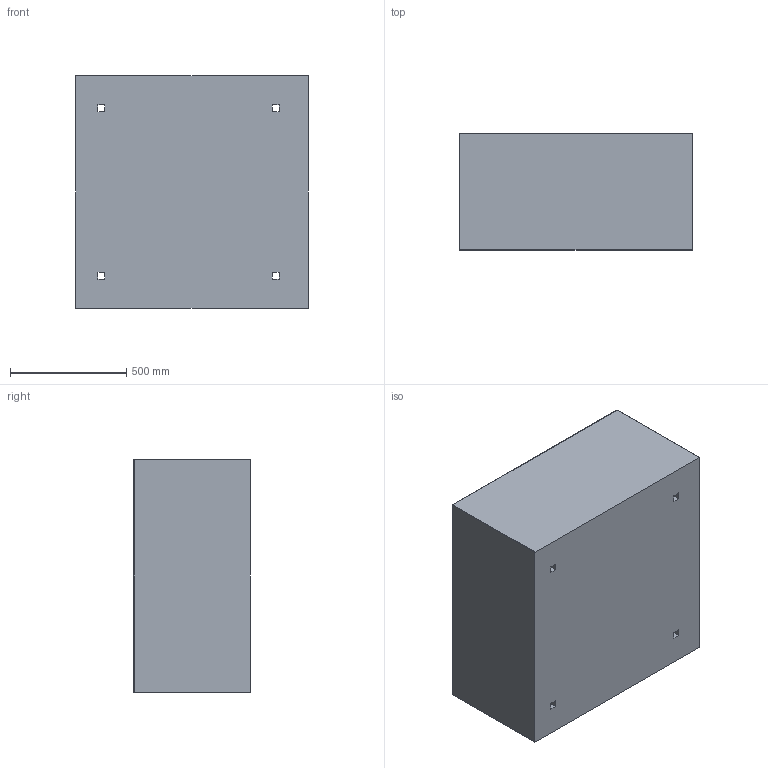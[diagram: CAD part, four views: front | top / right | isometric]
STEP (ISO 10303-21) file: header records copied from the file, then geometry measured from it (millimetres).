
FILE_DESCRIPTION(/* description */ (''),/* implementation_level */ '2;1');
FILE_NAME(/* name */ 'C:\Mac\Home\Desktop\btnv\inventor\grande10010050\donica betonowa Grande 100x100x50cm.stp',/* time_stamp */ '2025-11-10T22:34:29+01:00',/* author */ ('dwasik'),/* organization */ (''),/* preprocessor_version */ 'ST-DEVELOPER v15.6',/* originating_system */ 'Autodesk Inventor 2015',/* authorisation */ '');
FILE_SCHEMA (('AUTOMOTIVE_DESIGN { 1 0 10303 214 3 1 1 }'));
Length unit declared in the file: millimetre
Products named in the file (1): Part1
Bounding box: 1000 x 500 x 1000 mm (x, y, z)
Volume: 135416887.8 mm3; surface area: 5653858.3 mm2
Topology: 5 solids, 5 shells, 51 faces, 108 edges, 68 vertices
Faces by surface type: plane 35, cylinder 12, sphere 4
Full cylindrical faces by diameter (mm): 25 x4
Entity records: 1366 total; most frequent: DIRECTION 232, CARTESIAN_POINT 224, ORIENTED_EDGE 208, EDGE_CURVE 104, LINE 80, VECTOR 80, AXIS2_PLACEMENT_3D 76, VERTEX_POINT 68
